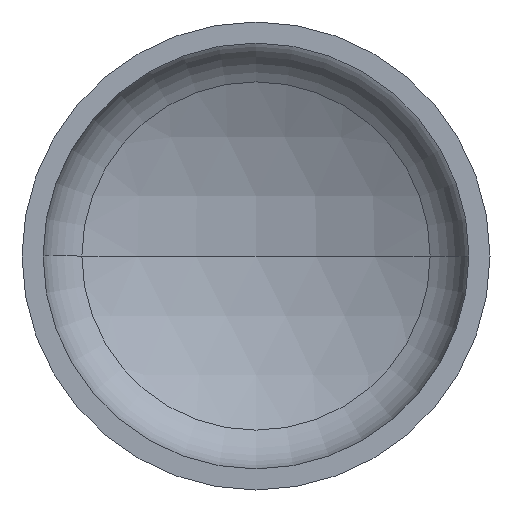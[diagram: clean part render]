
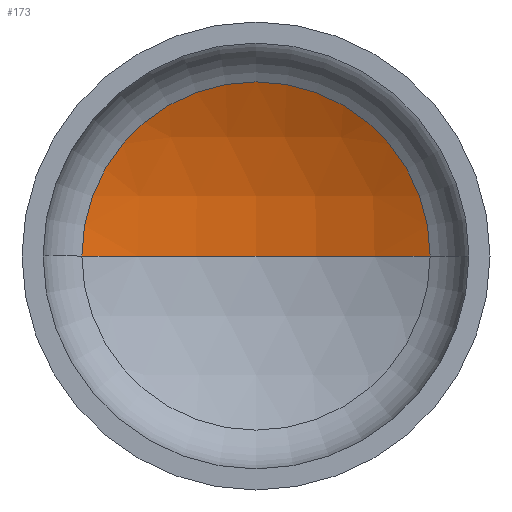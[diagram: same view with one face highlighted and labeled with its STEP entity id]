
A CAD part, front view. The second image highlights one B-rep face of the part: STEP entity #173.
In plain terms, the highlighted spherical face has radius 1600 mm.
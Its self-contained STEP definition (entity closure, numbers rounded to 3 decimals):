
#5 = ORIENTED_EDGE ( 'NONE', *, *, #303, .T. ) ;
#19 = VERTEX_POINT ( 'NONE', #294 ) ;
#23 = ORIENTED_EDGE ( 'NONE', *, *, #329, .F. ) ;
#24 = AXIS2_PLACEMENT_3D ( 'NONE', #225, #388, #251 ) ;
#25 = VERTEX_POINT ( 'NONE', #239 ) ;
#28 = AXIS2_PLACEMENT_3D ( 'NONE', #314, #165, #341 ) ;
#33 = AXIS2_PLACEMENT_3D ( 'NONE', #289, #124, #311 ) ;
#52 = AXIS2_PLACEMENT_3D ( 'NONE', #121, #404, #262 ) ;
#101 = FACE_OUTER_BOUND ( 'NONE', #133, .T. ) ;
#121 = CARTESIAN_POINT ( 'NONE',  ( 0., -1041.972, 0. ) ) ;
#124 = DIRECTION ( 'NONE',  ( 0., -1., 0. ) ) ;
#131 = CARTESIAN_POINT ( 'NONE',  ( 0., 558.028, 0. ) ) ;
#133 = EDGE_LOOP ( 'NONE', ( #23, #151, #5 ) ) ;
#144 = CIRCLE ( 'NONE', #24, 1600. ) ;
#151 = ORIENTED_EDGE ( 'NONE', *, *, #322, .T. ) ;
#165 = DIRECTION ( 'NONE',  ( 0., 0., -1. ) ) ;
#168 = VERTEX_POINT ( 'NONE', #131 ) ;
#173 = ADVANCED_FACE ( 'NONE', ( #101 ), #258, .F. ) ;
#225 = CARTESIAN_POINT ( 'NONE',  ( 0., -1041.972, 0. ) ) ;
#227 = CIRCLE ( 'NONE', #28, 1600. ) ;
#239 = CARTESIAN_POINT ( 'NONE',  ( -744.186, 374.427, 0. ) ) ;
#241 = CIRCLE ( 'NONE', #33, 744.186 ) ;
#251 = DIRECTION ( 'NONE',  ( 1., 0., 0. ) ) ;
#258 = SPHERICAL_SURFACE ( 'NONE', #52, 1600. ) ;
#262 = DIRECTION ( 'NONE',  ( -1., 0., 0. ) ) ;
#289 = CARTESIAN_POINT ( 'NONE',  ( 0., 374.427, 0. ) ) ;
#294 = CARTESIAN_POINT ( 'NONE',  ( 744.186, 374.427, 0. ) ) ;
#303 = EDGE_CURVE ( 'NONE', #19, #25, #241, .T. ) ;
#311 = DIRECTION ( 'NONE',  ( 1., 0., 0. ) ) ;
#314 = CARTESIAN_POINT ( 'NONE',  ( 0., -1041.972, 0. ) ) ;
#322 = EDGE_CURVE ( 'NONE', #168, #19, #227, .T. ) ;
#329 = EDGE_CURVE ( 'NONE', #168, #25, #144, .T. ) ;
#341 = DIRECTION ( 'NONE',  ( -1., 0., 0. ) ) ;
#388 = DIRECTION ( 'NONE',  ( 0., 0., 1. ) ) ;
#404 = DIRECTION ( 'NONE',  ( 0., 0., -1. ) ) ;
